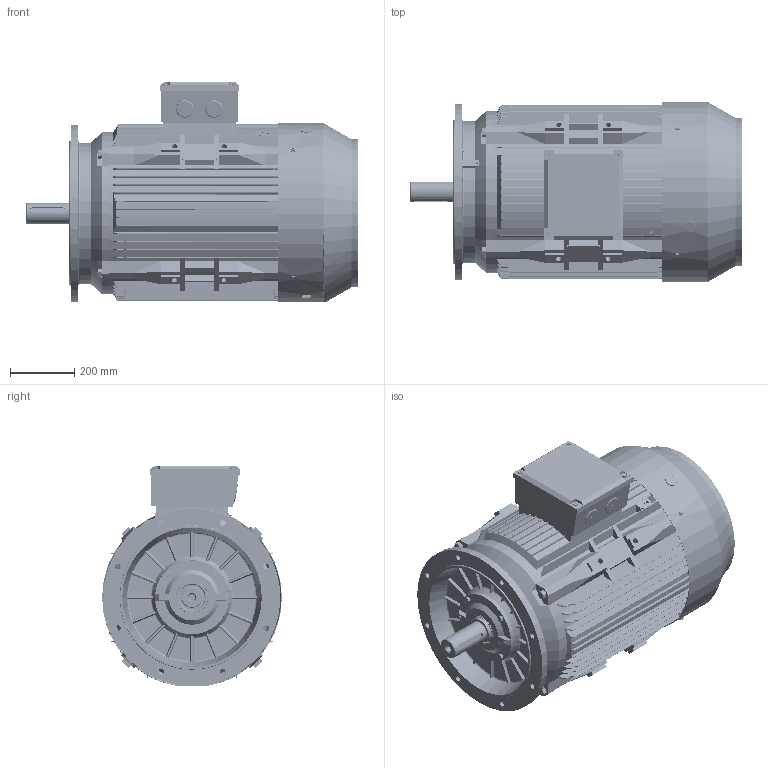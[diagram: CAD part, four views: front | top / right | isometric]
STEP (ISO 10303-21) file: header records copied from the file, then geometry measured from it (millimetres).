
FILE_DESCRIPTION (( 'STEP AP214' ), '1' );
FILE_NAME ('BCT3900.28D205.11.STEP', '2020-04-23T09:46:18', ( '' ), ( '' ), 'SwSTEP 2.0', 'SolidWorks 2019', '' );
FILE_SCHEMA (( 'AUTOMOTIVE_DESIGN' ));
Length unit declared in the file: millimetre
Products named in the file (1): BCT3900.28D205.11
Bounding box: 1032.2 x 559 x 683.18 mm (x, y, z)
Volume: 37762036.6 mm3; surface area: 7058449.5 mm2
Topology: 41 solids, 42 shells, 9881 faces, 29002 edges, 19137 vertices
Faces by surface type: plane 4886, cylinder 4227, cone 298, torus 231, sphere 124, bspline 115
Entity records: 363176 total; most frequent: CARTESIAN_POINT 93023, ORIENTED_EDGE 57596, DIRECTION 55455, EDGE_CURVE 28798, VERTEX_POINT 19075, AXIS2_PLACEMENT_3D 18947, LINE 17561, VECTOR 17561
